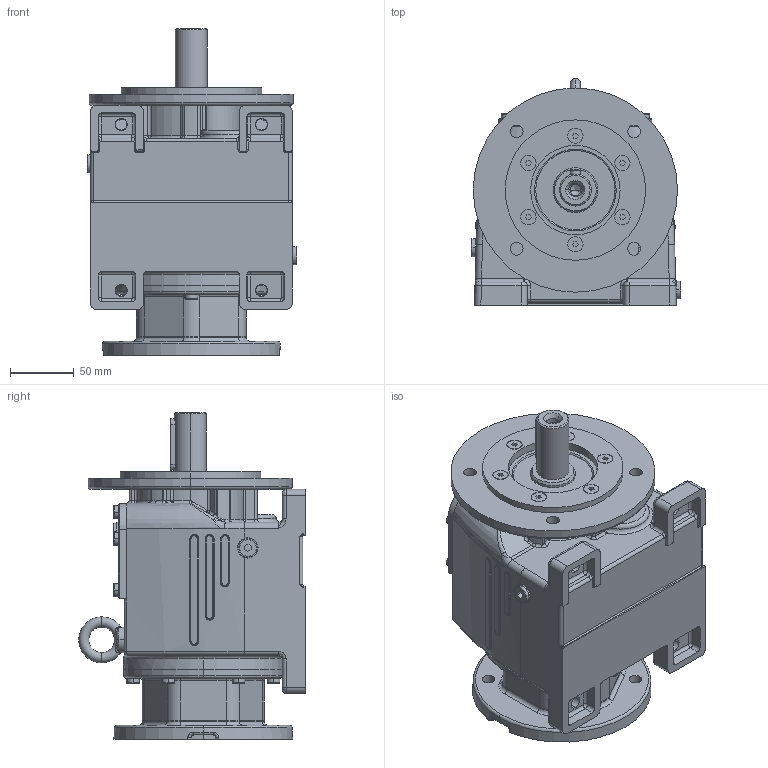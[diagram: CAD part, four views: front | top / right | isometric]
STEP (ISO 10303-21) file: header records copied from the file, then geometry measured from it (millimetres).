
FILE_DESCRIPTION (( 'STEP AP214' ), '1' );
FILE_NAME ('MTC32A-80-115+VP.STEP', '2006-05-04T04:29:52', ( '' ), ( '' ), 'SwSTEP 2.0', 'SolidWorks 2004146', '' );
FILE_SCHEMA (( 'AUTOMOTIVE_DESIGN' ));
Products named in the file (6): Výst_pøíruba MTC_A_MTC3_A; pøíruba115 d72 MRT80a_Výchozí; Skrin MTC3_A_MTC32A_AP80; D6912_Šroub DIN 6912 - M6x20; D7991_Šroub DIN 7991 - M6 x 25; MTC32A-80-115+VP
Assembly tree (15 placements, depth 2):
  MTC32A-80-115+VP
    D6912_Šroub DIN 6912 - M6x20  x6
    D7991_Šroub DIN 7991 - M6 x 25  x6
    Výst_pøíruba MTC_A_MTC3_A
    pøíruba115 d72 MRT80a_Výchozí
    Skrin MTC3_A_MTC32A_AP80
Bounding box: 164 x 177.5 x 256 mm (x, y, z)
Volume: 3244673.9 mm3; surface area: 256460.8 mm2
Topology: 15 solids, 15 shells, 1702 faces, 3946 edges, 2281 vertices
Faces by surface type: cylinder 487, plane 452, torus 323, cone 207, bspline 194, sphere 39
Entity records: 151832 total; most frequent: CARTESIAN_POINT 116139, DIRECTION 6936, ORIENTED_EDGE 6648, EDGE_CURVE 3324, AXIS2_PLACEMENT_3D 2857, VERTEX_POINT 1993, CIRCLE 1611, EDGE_LOOP 1557
